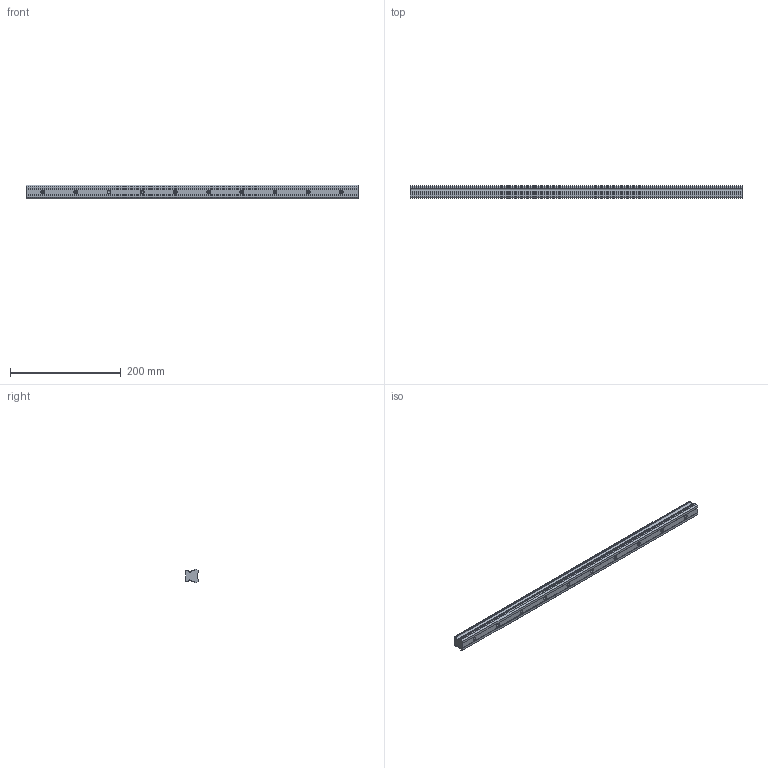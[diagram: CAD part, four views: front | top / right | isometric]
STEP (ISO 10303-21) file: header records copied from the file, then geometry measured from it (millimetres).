
FILE_DESCRIPTION (( 'STEP AP203' ), '1' );
FILE_NAME ('L1018.25R-0600.step', '2023-08-06T10:33:40', ( '' ), ( '' ), 'SwSTEP 2.0', 'SolidWorks 2019', '' );
FILE_SCHEMA (( 'CONFIG_CONTROL_DESIGN' ));
Length unit declared in the file: millimetre
Products named in the file (1): L1018.25R-0600
Bounding box: 600 x 21.8 x 25 mm (x, y, z)
Volume: 249532.9 mm3; surface area: 60425 mm2
Topology: 1 solids, 1 shells, 119 faces, 281 edges, 164 vertices
Faces by surface type: cylinder 43, cone 40, plane 36
Entity records: 3338 total; most frequent: DIRECTION 607, CARTESIAN_POINT 545, ORIENTED_EDGE 522, EDGE_CURVE 261, AXIS2_PLACEMENT_3D 226, VERTEX_POINT 164, LINE 155, VECTOR 155
